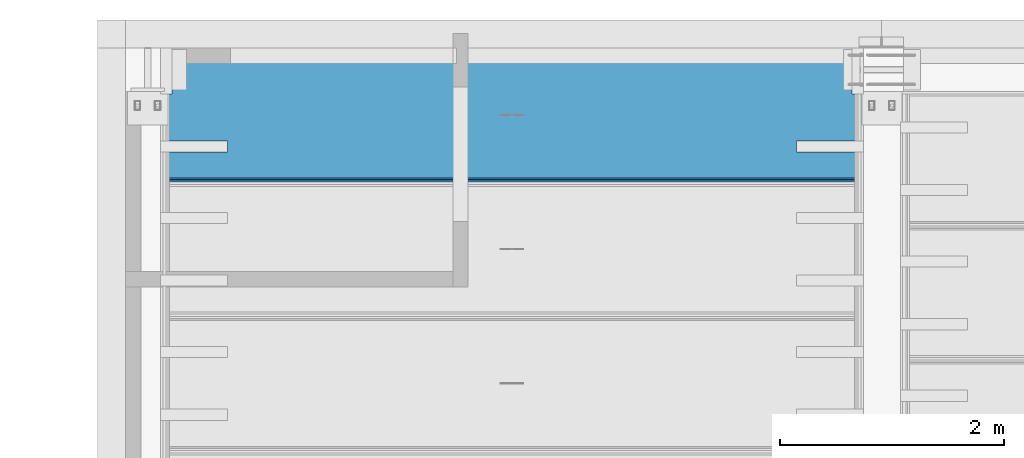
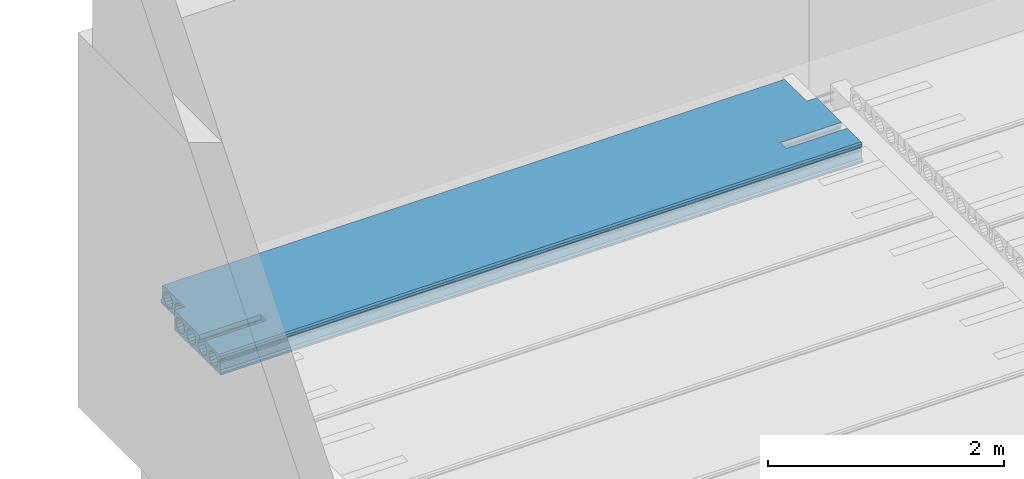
# One storey, part 137 of 230: 1 beam.
"""IFC4X3_ADD2 building model written with IfcOpenShell, lengths in millimetres."""

from ifc_helpers import new_model, si_unit, direction, origin_with_axes, place, context, subcontext, project, spatial, polygons, element, save


model = new_model("IFC4X3_ADD2")

# Units and contexts
model_context = context("Model", 3, precision=1e-05, world=origin_with_axes(), true_north=direction((0.0, 1.0)))
body_context = subcontext(model_context, "Body", "Model", "MODEL_VIEW")
ifc_project = project(units=[si_unit("LENGTHUNIT", "METRE", prefix="MILLI"), si_unit("AREAUNIT", "SQUARE_METRE"), si_unit("VOLUMEUNIT", "CUBIC_METRE"), si_unit("PLANEANGLEUNIT", "RADIAN"), si_unit("TIMEUNIT", "SECOND"), si_unit("MASSUNIT", "GRAM")], contexts=[model_context])

# Site, building, storey
site_placement = place(None, origin_with_axes())
site = spatial("IfcSite", under=ifc_project, at=site_placement, Name="Site", CompositionType="ELEMENT")
building_placement = place(site_placement, origin_with_axes())
building = spatial("IfcBuilding", under=site, at=building_placement, Name="IFC Building Story")
storey_placement = place(building_placement, origin_with_axes())
storey = spatial("IfcBuildingStorey", under=building, at=storey_placement, Name="ETAGE 00 (0)", Elevation=0.0)

# Beam
beam_placement = place(storey_placement, origin_with_axes())
element("IfcBeam", 1, at=beam_placement, inside=storey, Name="HOLLOWCORE SLAB", ObjectType="EB_SP200", context=body_context, shape_type="Tessellation", body=[
    polygons([(33516.189, 25361.00091552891, 3999.9999909), (33516.189, 25350.0009155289, 4012.999990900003), (33516.189, 25350.0009155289, 4029.9999909), (33516.189, 25370.0009155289, 4044.999990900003), (33516.189, 25371.45092773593, 4119.9999909), (33516.189, 25378.98353700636, 4128.67613934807), (33516.189, 25381.84084554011, 4139.805000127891), (33516.189, 25379.41955194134, 4151.036789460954), (33516.189, 25372.23089599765, 4159.9999909), (33516.189, 25372.71221169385, 4185.002769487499), (33516.189, 25388.0009155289, 4199.9999909), (33516.189, 25620.0009155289, 4199.9999909), (33516.189, 25620.0009155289, 4155.806158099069), (33516.189, 25615.32146033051, 4152.679446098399), (33516.189, 25599.17189035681, 4128.509906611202), (33516.189, 25593.5009155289, 4099.9999909), (33516.189, 25599.17189035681, 4071.490075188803), (33516.189, 25615.3214603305, 4047.320535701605), (33516.189, 25639.4909998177, 4031.170965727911), (33516.189, 25668.0009155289, 4025.499990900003), (33516.189, 25696.5108312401, 4031.170965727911), (33516.189, 25720.6803707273, 4047.320535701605), (33516.189, 25736.82994070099, 4071.490075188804), (33516.189, 25742.5009155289, 4099.9999909), (33516.189, 25736.82994070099, 4128.509906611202), (33516.189, 25720.6803707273, 4152.6794460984), (33516.189, 25720.0009155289, 4153.133443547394), (33516.189, 25720.0009155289, 4199.9999909), (33516.189, 26140.0009155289, 4199.9999909), (33516.189, 26140.0009155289, 3999.9999909), (33516.189, 26096.6803707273, 4152.6794460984), (33516.189, 26072.5108312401, 4168.829016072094), (33516.189, 26044.0009155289, 4174.499990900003), (33516.189, 26015.4909998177, 4168.829016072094), (33516.189, 25991.32146033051, 4152.679446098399), (33516.189, 25975.17189035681, 4128.509906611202), (33516.189, 25969.5009155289, 4099.9999909), (33516.189, 25975.1718903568, 4071.490075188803), (33516.189, 25991.32146033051, 4047.320535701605), (33516.189, 26015.4909998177, 4031.170965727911), (33516.189, 26044.0009155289, 4025.499990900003), (33516.189, 26072.5108312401, 4031.170965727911), (33516.189, 26096.6803707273, 4047.320535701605), (33516.189, 26112.82994070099, 4071.490075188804), (33516.189, 26118.5009155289, 4099.9999909), (33516.189, 26112.82994070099, 4128.509906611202), (33516.189, 25908.6803707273, 4152.6794460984), (33516.189, 25884.5108312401, 4168.829016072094), (33516.189, 25856.0009155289, 4174.499990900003), (33516.189, 25827.49099981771, 4168.829016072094), (33516.189, 25803.3214603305, 4152.679446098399), (33516.189, 25787.17189035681, 4128.509906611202), (33516.189, 25781.5009155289, 4099.9999909), (33516.189, 25787.17189035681, 4071.490075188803), (33516.189, 25803.3214603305, 4047.320535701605), (33516.189, 25827.4909998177, 4031.170965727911), (33516.189, 25856.0009155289, 4025.499990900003), (33516.189, 25884.51083124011, 4031.170965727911), (33516.189, 25908.6803707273, 4047.320535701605), (33516.189, 25924.82994070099, 4071.490075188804), (33516.189, 25930.5009155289, 4099.9999909), (33516.189, 25924.829940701, 4128.509906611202), (33516.189, 25532.6803707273, 4152.6794460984), (33516.189, 25508.5108312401, 4168.829016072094), (33516.189, 25480.0009155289, 4174.499990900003), (33516.189, 25451.49099981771, 4168.829016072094), (33516.189, 25427.3214603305, 4152.679446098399), (33516.189, 25411.17189035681, 4128.509906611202), (33516.189, 25405.5009155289, 4099.9999909), (33516.189, 25411.17189035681, 4071.490075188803), (33516.189, 25427.3214603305, 4047.320535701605), (33516.189, 25451.4909998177, 4031.170965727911), (33516.189, 25480.0009155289, 4025.499990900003), (33516.189, 25508.5108312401, 4031.170965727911), (33516.189, 25532.68037072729, 4047.320535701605), (33516.189, 25548.82994070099, 4071.490075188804), (33516.189, 25554.5009155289, 4099.9999909), (33516.189, 25548.82994070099, 4128.509906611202), (39801.189, 25720.0009155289, 4199.9999909), (39801.189, 25720.0009155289, 4153.133443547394), (39801.189, 25720.6803707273, 4152.6794460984), (39801.189, 25736.82994070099, 4128.509906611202), (39801.189, 25742.5009155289, 4099.9999909), (39801.189, 25736.82994070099, 4071.490075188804), (39801.189, 25720.6803707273, 4047.320535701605), (39801.189, 25696.5108312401, 4031.170965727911), (39801.189, 25668.0009155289, 4025.499990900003), (39801.189, 25639.4909998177, 4031.170965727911), (39801.189, 25615.32146033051, 4047.320535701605), (39801.189, 25599.17189035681, 4071.490075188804), (39801.189, 25593.5009155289, 4099.9999909), (39801.189, 25599.17189035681, 4128.509906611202), (39801.189, 25615.32146033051, 4152.6794460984), (39801.189, 25620.0009155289, 4155.806158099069), (39801.189, 25620.0009155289, 4199.9999909), (39801.189, 25388.0009155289, 4199.9999909), (39801.189, 25372.71221169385, 4185.002769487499), (39801.189, 25372.23089599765, 4159.9999909), (39801.189, 25379.41955194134, 4151.036789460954), (39801.189, 25381.84084554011, 4139.805000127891), (39801.189, 25378.98353700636, 4128.67613934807), (39801.189, 25371.45092773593, 4119.9999909), (39801.189, 25370.0009155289, 4044.999990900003), (39801.189, 25350.0009155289, 4029.9999909), (39801.189, 25350.0009155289, 4012.999990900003), (39801.189, 25361.0009155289, 3999.9999909), (39801.189, 26140.0009155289, 3999.9999909), (39801.189, 26140.0009155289, 4199.9999909), (39801.189, 26096.6803707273, 4152.6794460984), (39801.189, 26112.82994070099, 4128.509906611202), (39801.189, 26118.5009155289, 4099.9999909), (39801.189, 26112.82994070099, 4071.490075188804), (39801.189, 26096.6803707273, 4047.320535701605), (39801.189, 26072.5108312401, 4031.170965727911), (39801.189, 26044.0009155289, 4025.499990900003), (39801.189, 26015.4909998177, 4031.170965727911), (39801.189, 25991.3214603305, 4047.320535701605), (39801.189, 25975.17189035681, 4071.490075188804), (39801.189, 25969.5009155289, 4099.9999909), (39801.189, 25975.17189035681, 4128.509906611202), (39801.189, 25991.3214603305, 4152.6794460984), (39801.189, 26015.4909998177, 4168.829016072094), (39801.189, 26044.0009155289, 4174.499990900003), (39801.189, 26072.5108312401, 4168.829016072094), (39801.189, 25908.6803707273, 4152.6794460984), (39801.189, 25924.82994070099, 4128.509906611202), (39801.189, 25930.5009155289, 4099.9999909), (39801.189, 25924.82994070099, 4071.490075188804), (39801.189, 25908.6803707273, 4047.320535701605), (39801.189, 25884.5108312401, 4031.170965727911), (39801.189, 25856.0009155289, 4025.499990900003), (39801.189, 25827.4909998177, 4031.170965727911), (39801.189, 25803.3214603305, 4047.320535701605), (39801.189, 25787.17189035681, 4071.490075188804), (39801.189, 25781.5009155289, 4099.9999909), (39801.189, 25787.17189035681, 4128.509906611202), (39801.189, 25803.3214603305, 4152.6794460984), (39801.189, 25827.4909998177, 4168.829016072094), (39801.189, 25856.0009155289, 4174.499990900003), (39801.189, 25884.5108312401, 4168.829016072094), (39801.189, 25532.6803707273, 4152.6794460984), (39801.189, 25548.82994070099, 4128.509906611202), (39801.189, 25554.5009155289, 4099.9999909), (39801.189, 25548.82994070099, 4071.490075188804), (39801.189, 25532.6803707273, 4047.320535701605), (39801.189, 25508.5108312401, 4031.170965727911), (39801.189, 25480.0009155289, 4025.499990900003), (39801.189, 25451.4909998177, 4031.170965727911), (39801.189, 25427.3214603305, 4047.320535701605), (39801.189, 25411.17189035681, 4071.490075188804), (39801.189, 25405.5009155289, 4099.9999909), (39801.189, 25411.17189035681, 4128.509906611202), (39801.189, 25427.3214603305, 4152.6794460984), (39801.189, 25451.4909998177, 4168.829016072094), (39801.189, 25480.0009155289, 4174.499990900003), (39801.189, 25508.5108312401, 4168.829016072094), (33616.189, 26140.0009155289, 3999.9999909), (33616.189, 26539.0009155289, 3999.9999909), (39701.18900000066, 26539.0009155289, 3999.9999909), (39701.18900000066, 26140.0009155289, 3999.9999909), (39201.189, 25620.0009155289, 4199.9999909), (39201.189, 25720.0009155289, 4199.9999909), (39701.18900000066, 26140.0009155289, 4199.9999909), (39701.18900000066, 26512.0009155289, 4199.9999909), (33616.189, 26512.0009155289, 4199.9999909), (33616.189, 26140.0009155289, 4199.9999909), (34116.189, 25720.0009155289, 4199.9999909), (34116.189, 25620.0009155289, 4199.9999909), (33616.189, 26527.28961936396, 4185.002769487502), (39701.18900000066, 26527.28961936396, 4185.002769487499), (33616.189, 26527.77093506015, 4159.9999909), (39701.18900000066, 26527.77093506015, 4159.9999909), (33616.189, 26520.58227911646, 4151.036789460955), (39701.18900000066, 26520.58227911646, 4151.036789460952), (33616.189, 26518.16098551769, 4139.805000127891), (39701.18900000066, 26518.1609855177, 4139.805000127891), (33616.189, 26521.01829405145, 4128.67613934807), (39701.18900000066, 26521.01829405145, 4128.676139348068), (33616.189, 26528.55090332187, 4119.9999909), (39701.18900000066, 26528.55090332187, 4119.9999909), (33616.189, 26530.0009155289, 4044.999990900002), (39701.18900000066, 26530.0009155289, 4044.999990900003), (33616.189, 26550.0009155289, 4029.9999909), (39701.18900000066, 26550.0009155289, 4029.9999909), (33616.189, 26550.0009155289, 4012.999990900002), (39701.18900000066, 26550.0009155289, 4012.999990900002), (33616.189, 26448.51083124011, 4168.829016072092), (33616.189, 26472.6803707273, 4152.679446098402), (39701.18900000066, 26472.6803707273, 4152.679446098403), (39701.18900000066, 26448.5108312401, 4168.829016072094), (33616.189, 26420.0009155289, 4174.499990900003), (39701.18900000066, 26420.0009155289, 4174.499990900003), (33616.189, 26391.4909998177, 4168.829016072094), (39701.18900000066, 26391.4909998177, 4168.829016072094), (33616.189, 26367.32146033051, 4152.679446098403), (39701.18900000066, 26367.32146033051, 4152.679446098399), (33616.189, 26351.17189035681, 4128.5099066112), (39701.18900000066, 26351.17189035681, 4128.509906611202), (33616.189, 26345.5009155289, 4099.9999909), (39701.18900000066, 26345.5009155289, 4099.9999909), (33616.189, 26351.17189035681, 4071.490075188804), (39701.18900000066, 26351.17189035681, 4071.490075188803), (33616.189, 26367.3214603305, 4047.320535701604), (39701.18900000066, 26367.3214603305, 4047.320535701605), (33616.189, 26391.4909998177, 4031.170965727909), (39701.18900000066, 26391.4909998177, 4031.170965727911), (33616.189, 26420.0009155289, 4025.499990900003), (39701.18900000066, 26420.0009155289, 4025.499990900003), (33616.189, 26448.5108312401, 4031.170965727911), (39701.18900000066, 26448.5108312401, 4031.170965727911), (33616.189, 26472.6803707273, 4047.320535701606), (39701.18900000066, 26472.6803707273, 4047.320535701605), (33616.189, 26488.82994070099, 4071.490075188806), (39701.18900000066, 26488.82994070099, 4071.490075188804), (33616.189, 26494.5009155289, 4099.9999909), (39701.18900000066, 26494.5009155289, 4099.9999909), (33616.189, 26488.82994070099, 4128.509906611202), (39701.18900000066, 26488.82994070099, 4128.509906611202), (33616.189, 26260.5108312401, 4168.829016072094), (33616.189, 26284.6803707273, 4152.679446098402), (39701.18900000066, 26284.6803707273, 4152.6794460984), (39701.18900000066, 26260.5108312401, 4168.829016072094), (33616.189, 26232.0009155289, 4174.499990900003), (39701.18900000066, 26232.0009155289, 4174.499990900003), (33616.189, 26203.4909998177, 4168.829016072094), (39701.18900000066, 26203.4909998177, 4168.829016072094), (33616.189, 26179.32146033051, 4152.679446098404), (39701.18900000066, 26179.32146033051, 4152.679446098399), (33616.189, 26163.17189035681, 4128.5099066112), (39701.18900000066, 26163.17189035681, 4128.509906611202), (33616.189, 26157.5009155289, 4099.9999909), (39701.18900000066, 26157.5009155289, 4099.9999909), (33616.189, 26163.17189035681, 4071.490075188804), (39701.18900000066, 26163.17189035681, 4071.490075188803), (33616.189, 26179.3214603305, 4047.320535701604), (39701.18900000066, 26179.3214603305, 4047.320535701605), (33616.189, 26203.4909998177, 4031.170965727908), (39701.18900000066, 26203.4909998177, 4031.170965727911), (33616.189, 26232.0009155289, 4025.499990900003), (39701.18900000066, 26232.0009155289, 4025.499990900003), (33616.189, 26260.5108312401, 4031.170965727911), (39701.18900000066, 26260.5108312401, 4031.170965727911), (33616.189, 26284.6803707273, 4047.320535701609), (39701.18900000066, 26284.6803707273, 4047.320535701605), (33616.189, 26300.82994070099, 4071.490075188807), (39701.18900000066, 26300.82994070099, 4071.490075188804), (33616.189, 26306.5009155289, 4099.9999909), (39701.18900000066, 26306.5009155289, 4099.9999909), (33616.189, 26300.82994070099, 4128.509906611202), (39701.18900000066, 26300.82994070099, 4128.509906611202), (39201.189, 25720.0009155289, 4153.133443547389), (39201.189, 25696.5108312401, 4168.829016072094), (34116.189, 25696.5108312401, 4168.829016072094), (34116.189, 25720.0009155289, 4153.133443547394), (39201.189, 25668.0009155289, 4174.499990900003), (34116.189, 25668.0009155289, 4174.499990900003), (39201.189, 25639.49099981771, 4168.829016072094), (34116.189, 25639.49099981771, 4168.829016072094), (34116.189, 25620.0009155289, 4155.806158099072), (39201.189, 25620.0009155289, 4155.806158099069), (39201.189, 25720.0009155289, 4199.999996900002), (39201.189, 25620.0009155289, 4199.999996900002), (34116.189, 25620.0009155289, 4199.999996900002), (34116.189, 25720.0009155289, 4199.999996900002), (39701.18900000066, 26140.0009155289, 3999.999996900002), (39701.18900000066, 26140.0009155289, 4199.999996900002)], [[[26, 27, 28]], [[50, 51, 25]], [[50, 25, 26]], [[50, 26, 28]], [[28, 49, 50]], [[49, 28, 29]], [[29, 48, 49]], [[29, 47, 48]], [[52, 53, 24]], [[52, 24, 25]], [[25, 51, 52]], [[54, 55, 23]], [[23, 24, 53]], [[23, 53, 54]], [[55, 22, 23]], [[34, 35, 62]], [[34, 62, 47]], [[47, 33, 34]], [[47, 29, 33]], [[29, 32, 33]], [[29, 31, 32]], [[36, 37, 61]], [[36, 61, 62]], [[62, 35, 36]], [[38, 39, 60]], [[60, 61, 37]], [[60, 37, 38]], [[46, 31, 29]], [[29, 45, 46]], [[29, 30, 45]], [[30, 44, 45]], [[30, 43, 44]], [[30, 42, 43]], [[30, 41, 42]], [[30, 40, 41]], [[30, 59, 40]], [[59, 60, 39]], [[59, 39, 40]], [[30, 58, 59]], [[30, 57, 58]], [[30, 21, 57]], [[21, 56, 57]], [[21, 22, 55]], [[21, 55, 56]], [[30, 20, 21]], [[30, 1, 20]], [[1, 19, 20]], [[1, 18, 19]], [[8, 9, 10]], [[8, 10, 11]], [[67, 68, 7]], [[67, 7, 8]], [[8, 11, 66]], [[8, 66, 67]], [[11, 65, 66]], [[65, 11, 12]], [[12, 64, 65]], [[12, 63, 64]], [[68, 6, 7]], [[70, 71, 4]], [[4, 5, 69]], [[4, 69, 70]], [[5, 6, 68]], [[5, 68, 69]], [[74, 75, 17]], [[74, 17, 18]], [[18, 73, 74]], [[18, 1, 73]], [[1, 72, 73]], [[1, 4, 71]], [[1, 71, 72]], [[1, 2, 3]], [[1, 3, 4]], [[76, 77, 16]], [[76, 16, 17]], [[17, 75, 76]], [[78, 63, 15]], [[15, 16, 77]], [[15, 77, 78]], [[63, 12, 14]], [[63, 14, 15]], [[12, 13, 14]], [[103, 104, 105]], [[103, 105, 106]], [[124, 109, 108]], [[108, 123, 124]], [[108, 122, 123]], [[108, 125, 122]], [[125, 121, 122]], [[125, 120, 121]], [[126, 127, 119]], [[126, 119, 120]], [[120, 125, 126]], [[128, 129, 118]], [[118, 119, 127]], [[118, 127, 128]], [[129, 117, 118]], [[140, 125, 108]], [[108, 139, 140]], [[108, 79, 139]], [[79, 138, 139]], [[79, 137, 138]], [[79, 80, 136]], [[79, 136, 137]], [[82, 83, 135]], [[82, 135, 136]], [[136, 81, 82]], [[136, 80, 81]], [[84, 85, 134]], [[134, 135, 83]], [[134, 83, 84]], [[85, 133, 134]], [[93, 94, 95]], [[95, 141, 92]], [[95, 92, 93]], [[142, 143, 91]], [[142, 91, 92]], [[92, 141, 142]], [[144, 145, 90]], [[90, 91, 143]], [[90, 143, 144]], [[151, 152, 101]], [[151, 101, 102]], [[102, 103, 150]], [[102, 150, 151]], [[103, 106, 149]], [[103, 149, 150]], [[106, 148, 149]], [[106, 147, 148]], [[106, 146, 147]], [[106, 89, 146]], [[89, 90, 145]], [[89, 145, 146]], [[106, 88, 89]], [[106, 87, 88]], [[106, 132, 87]], [[132, 86, 87]], [[132, 133, 85]], [[132, 85, 86]], [[106, 131, 132]], [[106, 116, 131]], [[116, 130, 131]], [[116, 117, 129]], [[116, 129, 130]], [[106, 115, 116]], [[106, 107, 115]], [[107, 114, 115]], [[107, 113, 114]], [[107, 112, 113]], [[107, 111, 112]], [[107, 108, 111]], [[108, 110, 111]], [[108, 109, 110]], [[152, 100, 101]], [[156, 141, 95]], [[95, 155, 156]], [[95, 96, 155]], [[96, 154, 155]], [[96, 99, 153]], [[96, 153, 154]], [[99, 100, 152]], [[99, 152, 153]], [[96, 97, 98]], [[96, 98, 99]], [[160, 107, 106]], [[160, 106, 157]], [[157, 158, 159]], [[157, 159, 160]], [[106, 1, 157]], [[1, 30, 157]], [[2, 1, 106, 105]], [[3, 2, 105, 104]], [[4, 3, 104, 103]], [[5, 4, 103, 102]], [[6, 5, 102, 101]], [[7, 6, 101, 100]], [[8, 7, 100, 99]], [[9, 8, 99, 98]], [[10, 9, 98, 97]], [[11, 10, 97, 96]], [[163, 164, 162]], [[162, 79, 163]], [[79, 108, 163]], [[162, 164, 165]], [[165, 161, 162]], [[166, 29, 28]], [[168, 12, 11]], [[168, 11, 96]], [[96, 167, 168]], [[96, 161, 165]], [[96, 165, 167]], [[166, 28, 167]], [[167, 165, 166]], [[96, 95, 161]], [[169, 165, 164, 170]], [[171, 169, 170, 172]], [[173, 171, 172, 174]], [[175, 173, 174, 176]], [[177, 175, 176, 178]], [[179, 177, 178, 180]], [[181, 179, 180, 182]], [[183, 181, 182, 184]], [[185, 183, 184, 186]], [[158, 185, 186, 159]], [[187, 188, 189, 190]], [[191, 187, 190, 192]], [[193, 191, 192, 194]], [[195, 193, 194, 196]], [[197, 195, 196, 198]], [[199, 197, 198, 200]], [[201, 199, 200, 202]], [[203, 201, 202, 204]], [[205, 203, 204, 206]], [[207, 205, 206, 208]], [[209, 207, 208, 210]], [[211, 209, 210, 212]], [[213, 211, 212, 214]], [[215, 213, 214, 216]], [[217, 215, 216, 218]], [[188, 217, 218, 189]], [[219, 220, 221, 222]], [[223, 219, 222, 224]], [[225, 223, 224, 226]], [[227, 225, 226, 228]], [[229, 227, 228, 230]], [[231, 229, 230, 232]], [[233, 231, 232, 234]], [[235, 233, 234, 236]], [[237, 235, 236, 238]], [[239, 237, 238, 240]], [[241, 239, 240, 242]], [[243, 241, 242, 244]], [[245, 243, 244, 246]], [[247, 245, 246, 248]], [[249, 247, 248, 250]], [[220, 249, 250, 221]], [[32, 31, 109, 124]], [[33, 32, 124, 123]], [[34, 33, 123, 122]], [[35, 34, 122, 121]], [[36, 35, 121, 120]], [[37, 36, 120, 119]], [[38, 37, 119, 118]], [[39, 38, 118, 117]], [[40, 39, 117, 116]], [[41, 40, 116, 115]], [[42, 41, 115, 114]], [[43, 42, 114, 113]], [[44, 43, 113, 112]], [[45, 44, 112, 111]], [[46, 45, 111, 110]], [[31, 46, 110, 109]], [[48, 47, 125, 140]], [[49, 48, 140, 139]], [[50, 49, 139, 138]], [[51, 50, 138, 137]], [[52, 51, 137, 136]], [[53, 52, 136, 135]], [[54, 53, 135, 134]], [[55, 54, 134, 133]], [[56, 55, 133, 132]], [[57, 56, 132, 131]], [[58, 57, 131, 130]], [[59, 58, 130, 129]], [[60, 59, 129, 128]], [[61, 60, 128, 127]], [[62, 61, 127, 126]], [[47, 62, 126, 125]], [[254, 27, 26]], [[254, 26, 251]], [[251, 252, 253]], [[251, 253, 254]], [[26, 81, 251]], [[81, 80, 251]], [[253, 252, 255, 256]], [[256, 255, 257, 258]], [[260, 94, 93]], [[260, 93, 259]], [[259, 258, 257]], [[259, 257, 260]], [[93, 14, 259]], [[14, 13, 259]], [[15, 14, 93, 92]], [[16, 15, 92, 91]], [[17, 16, 91, 90]], [[18, 17, 90, 89]], [[19, 18, 89, 88]], [[20, 19, 88, 87]], [[21, 20, 87, 86]], [[22, 21, 86, 85]], [[23, 22, 85, 84]], [[24, 23, 84, 83]], [[25, 24, 83, 82]], [[26, 25, 82, 81]], [[64, 63, 141, 156]], [[65, 64, 156, 155]], [[66, 65, 155, 154]], [[67, 66, 154, 153]], [[68, 67, 153, 152]], [[69, 68, 152, 151]], [[70, 69, 151, 150]], [[71, 70, 150, 149]], [[72, 71, 149, 148]], [[73, 72, 148, 147]], [[74, 73, 147, 146]], [[75, 74, 146, 145]], [[76, 75, 145, 144]], [[77, 76, 144, 143]], [[78, 77, 143, 142]], [[63, 78, 142, 141]], [[95, 94, 260, 161]], [[80, 79, 261, 251]], [[252, 251, 162]], [[162, 262, 255]], [[162, 255, 252]], [[262, 257, 255]], [[262, 260, 257]], [[28, 27, 254, 167]], [[13, 12, 263, 259]], [[258, 259, 168]], [[168, 256, 258]], [[168, 264, 253]], [[168, 253, 256]], [[264, 254, 253]], [[30, 29, 166, 157]], [[173, 175, 217]], [[173, 217, 188]], [[188, 165, 169]], [[188, 169, 171]], [[188, 171, 173]], [[177, 179, 215]], [[177, 215, 217]], [[217, 175, 177]], [[179, 181, 213]], [[179, 213, 215]], [[181, 183, 185]], [[181, 185, 158]], [[158, 211, 213]], [[158, 213, 181]], [[158, 209, 211]], [[158, 207, 209]], [[158, 205, 207]], [[205, 158, 157]], [[157, 203, 205]], [[241, 243, 201]], [[241, 201, 203]], [[203, 239, 241]], [[203, 157, 239]], [[157, 237, 239]], [[157, 235, 237]], [[157, 233, 235]], [[157, 231, 233]], [[157, 166, 231]], [[166, 229, 231]], [[166, 227, 229]], [[166, 225, 227]], [[166, 223, 225]], [[166, 219, 223]], [[219, 166, 165]], [[165, 220, 219]], [[245, 247, 199]], [[245, 199, 201]], [[201, 243, 245]], [[249, 220, 197]], [[197, 199, 247]], [[197, 247, 249]], [[220, 195, 197]], [[220, 193, 195]], [[220, 191, 193]], [[220, 165, 191]], [[165, 187, 191]], [[165, 188, 187]], [[265, 163, 108, 107]], [[190, 189, 218]], [[190, 218, 216]], [[190, 216, 214]], [[190, 214, 212]], [[190, 212, 210]], [[190, 210, 208]], [[190, 208, 206]], [[190, 206, 204]], [[190, 204, 202]], [[190, 202, 200]], [[190, 200, 198]], [[190, 198, 196]], [[190, 196, 194]], [[190, 194, 192]]]),
])

save(model, "model.ifc")
